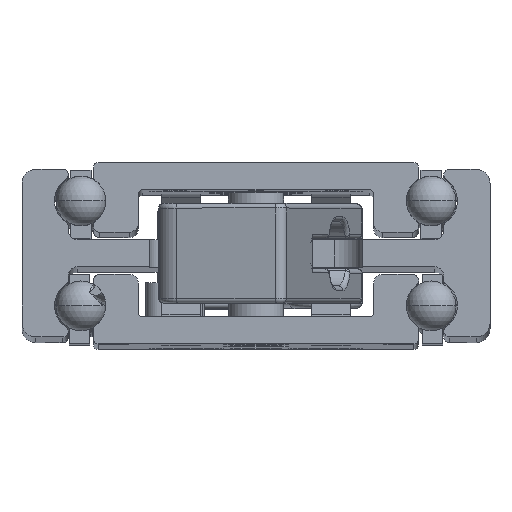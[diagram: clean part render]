
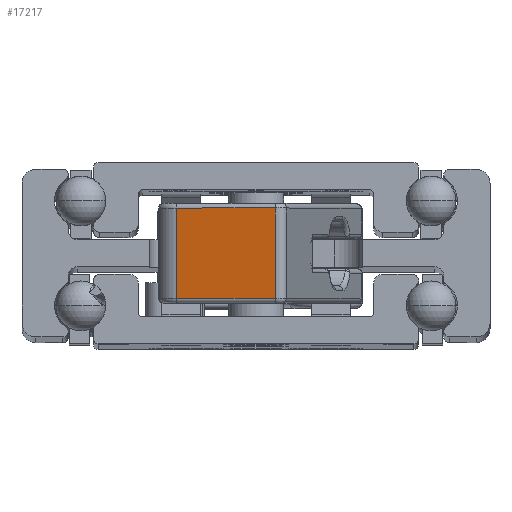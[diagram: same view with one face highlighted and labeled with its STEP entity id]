
A CAD part, top view. The second image highlights one B-rep face of the part: STEP entity #17217.
In plain terms, the highlighted planar face has unit normal (-0.225, 0, 0.974) as drawn and (-1, 0, 0) by its records, which use the part's own axes.
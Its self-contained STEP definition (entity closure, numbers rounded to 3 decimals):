
#273 = ORIENTED_EDGE ( 'NONE', *, *, #13198, .T. ) ;
#961 = PLANE ( 'NONE',  #18161 ) ;
#1771 = ORIENTED_EDGE ( 'NONE', *, *, #19652, .T. ) ;
#1867 = EDGE_LOOP ( 'NONE', ( #273, #19282, #13174, #1771 ) ) ;
#2850 = DIRECTION ( 'NONE',  ( 0., 1., 0. ) ) ;
#3075 = DIRECTION ( 'NONE',  ( 0., 1., 0. ) ) ;
#3305 = DIRECTION ( 'NONE',  ( 0., -1., 0. ) ) ;
#3874 = CARTESIAN_POINT ( 'NONE',  ( -37., 8., -4.9 ) ) ;
#5200 = CARTESIAN_POINT ( 'NONE',  ( -37., 8., 5.4 ) ) ;
#6151 = CARTESIAN_POINT ( 'NONE',  ( -37., -3., 5.4 ) ) ;
#6231 = CARTESIAN_POINT ( 'NONE',  ( -37., -3., 4.9 ) ) ;
#6361 = VECTOR ( 'NONE', #2850, 1000. ) ;
#6420 = CARTESIAN_POINT ( 'NONE',  ( -37., 8., 4.9 ) ) ;
#7195 = DIRECTION ( 'NONE',  ( 1., 0., 0. ) ) ;
#7464 = LINE ( 'NONE', #5200, #14570 ) ;
#8727 = VERTEX_POINT ( 'NONE', #6420 ) ;
#11011 = VERTEX_POINT ( 'NONE', #12091 ) ;
#12091 = CARTESIAN_POINT ( 'NONE',  ( -37., -3., -4.9 ) ) ;
#13174 = ORIENTED_EDGE ( 'NONE', *, *, #15155, .T. ) ;
#13198 = EDGE_CURVE ( 'NONE', #8727, #18507, #7464, .T. ) ;
#14238 = CARTESIAN_POINT ( 'NONE',  ( -37., -4., -4.9 ) ) ;
#14570 = VECTOR ( 'NONE', #16121, 1000. ) ;
#15155 = EDGE_CURVE ( 'NONE', #11011, #18938, #16650, .T. ) ;
#16042 = LINE ( 'NONE', #24423, #6361 ) ;
#16121 = DIRECTION ( 'NONE',  ( 0., 0., -1. ) ) ;
#16650 = LINE ( 'NONE', #6151, #19558 ) ;
#17217 = ADVANCED_FACE ( 'NONE', ( #26510 ), #961, .F. ) ;
#18161 = AXIS2_PLACEMENT_3D ( 'NONE', #22524, #7195, #3075 ) ;
#18507 = VERTEX_POINT ( 'NONE', #3874 ) ;
#18938 = VERTEX_POINT ( 'NONE', #6231 ) ;
#19282 = ORIENTED_EDGE ( 'NONE', *, *, #19300, .T. ) ;
#19300 = EDGE_CURVE ( 'NONE', #18507, #11011, #25017, .T. ) ;
#19558 = VECTOR ( 'NONE', #25316, 1000. ) ;
#19652 = EDGE_CURVE ( 'NONE', #18938, #8727, #16042, .T. ) ;
#20380 = VECTOR ( 'NONE', #3305, 1000. ) ;
#22524 = CARTESIAN_POINT ( 'NONE',  ( -37., -4., 5.4 ) ) ;
#24423 = CARTESIAN_POINT ( 'NONE',  ( -37., 8., 4.9 ) ) ;
#25017 = LINE ( 'NONE', #14238, #20380 ) ;
#25316 = DIRECTION ( 'NONE',  ( 0., 0., 1. ) ) ;
#26510 = FACE_OUTER_BOUND ( 'NONE', #1867, .T. ) ;
